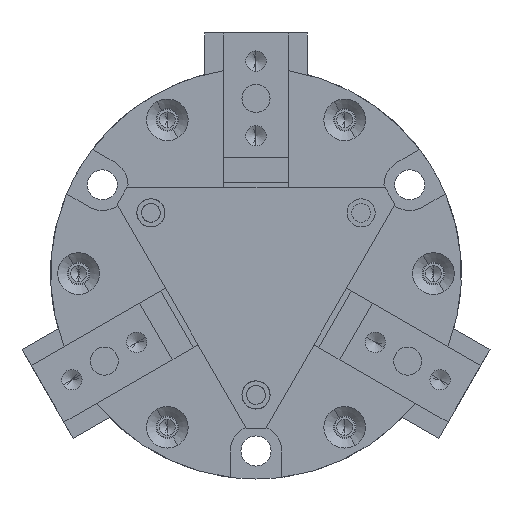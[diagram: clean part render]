
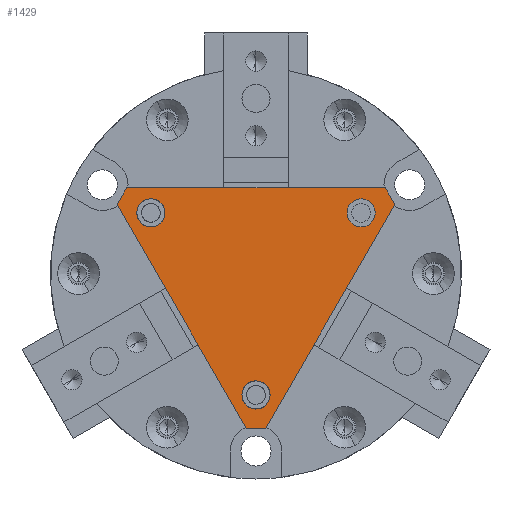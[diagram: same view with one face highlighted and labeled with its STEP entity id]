
A CAD part, front view. The second image highlights one B-rep face of the part: STEP entity #1429.
In plain terms, the highlighted planar face has unit normal (0, -1, 0).
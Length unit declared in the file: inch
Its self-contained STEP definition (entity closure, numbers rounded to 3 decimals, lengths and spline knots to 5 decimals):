
#62 = AXIS2_PLACEMENT_3D ( 'NONE', #4206, #447, #4855 ) ;
#154 = CIRCLE ( 'NONE', #6243, 0.094 ) ;
#314 = EDGE_CURVE ( 'NONE', #5791, #2482, #4451, .T. ) ;
#447 = DIRECTION ( 'NONE',  ( 0., 1., 0. ) ) ;
#621 = ORIENTED_EDGE ( 'NONE', *, *, #1817, .F. ) ;
#714 = FACE_BOUND ( 'NONE', #3078, .T. ) ;
#947 = VECTOR ( 'NONE', #5336, 39.37008 ) ;
#1154 = CARTESIAN_POINT ( 'NONE',  ( -0.92953, 0., 0.462 ) ) ;
#1218 = CARTESIAN_POINT ( 'NONE',  ( 0.92953, 0., 0.462 ) ) ;
#1305 = ORIENTED_EDGE ( 'NONE', *, *, #4484, .F. ) ;
#1429 = ADVANCED_FACE ( 'NONE', ( #5750, #714, #7619, #5558 ), #7865, .T. ) ;
#1449 = VECTOR ( 'NONE', #7545, 39.37008 ) ;
#1488 = EDGE_CURVE ( 'NONE', #5136, #6116, #5142, .T. ) ;
#1513 = CARTESIAN_POINT ( 'NONE',  ( -0.86487, 0., 0.574 ) ) ;
#1600 = CARTESIAN_POINT ( 'NONE',  ( 0., 0., -1.148 ) ) ;
#1632 = EDGE_CURVE ( 'NONE', #6116, #5136, #4337, .T. ) ;
#1698 = LINE ( 'NONE', #6988, #6552 ) ;
#1709 = VERTEX_POINT ( 'NONE', #1847 ) ;
#1742 = CARTESIAN_POINT ( 'NONE',  ( 0., 0., -0.7185 ) ) ;
#1789 = DIRECTION ( 'NONE',  ( 0., 1., 0. ) ) ;
#1811 = ORIENTED_EDGE ( 'NONE', *, *, #1632, .T. ) ;
#1817 = EDGE_CURVE ( 'NONE', #6718, #7294, #1698, .T. ) ;
#1847 = CARTESIAN_POINT ( 'NONE',  ( 0.70365, 0., 0.50025 ) ) ;
#2014 = CARTESIAN_POINT ( 'NONE',  ( 0.92953, 0., 0.462 ) ) ;
#2189 = CARTESIAN_POINT ( 'NONE',  ( -0.70365, 0., 0.31225 ) ) ;
#2195 = AXIS2_PLACEMENT_3D ( 'NONE', #7159, #3320, #7771 ) ;
#2214 = EDGE_LOOP ( 'NONE', ( #3746, #5862 ) ) ;
#2221 = DIRECTION ( 'NONE',  ( 0., -1., 0. ) ) ;
#2305 = VERTEX_POINT ( 'NONE', #7656 ) ;
#2413 = EDGE_LOOP ( 'NONE', ( #1305, #6575, #5270, #621, #4155, #6279 ) ) ;
#2482 = VERTEX_POINT ( 'NONE', #4677 ) ;
#2587 = AXIS2_PLACEMENT_3D ( 'NONE', #5572, #1789, #6224 ) ;
#2636 = VERTEX_POINT ( 'NONE', #3497 ) ;
#2678 = CARTESIAN_POINT ( 'NONE',  ( -0.92953, 0., 0.462 ) ) ;
#2823 = DIRECTION ( 'NONE',  ( 0., 1., 0. ) ) ;
#2927 = DIRECTION ( 'NONE',  ( -0.5, 0., 0.866 ) ) ;
#3049 = VECTOR ( 'NONE', #6465, 39.37008 ) ;
#3078 = EDGE_LOOP ( 'NONE', ( #4549, #1811 ) ) ;
#3081 = CARTESIAN_POINT ( 'NONE',  ( 0., 0., -0.8125 ) ) ;
#3122 = EDGE_CURVE ( 'NONE', #5774, #1709, #3622, .T. ) ;
#3320 = DIRECTION ( 'NONE',  ( 0., 1., 0. ) ) ;
#3497 = CARTESIAN_POINT ( 'NONE',  ( -0.86487, 0., 0.574 ) ) ;
#3526 = DIRECTION ( 'NONE',  ( 0., 1., 0. ) ) ;
#3616 = EDGE_CURVE ( 'NONE', #7294, #5791, #4809, .T. ) ;
#3622 = CIRCLE ( 'NONE', #62, 0.094 ) ;
#3713 = DIRECTION ( 'NONE',  ( 0., 0., 1. ) ) ;
#3746 = ORIENTED_EDGE ( 'NONE', *, *, #5576, .T. ) ;
#4155 = ORIENTED_EDGE ( 'NONE', *, *, #5050, .F. ) ;
#4206 = CARTESIAN_POINT ( 'NONE',  ( 0.70365, 0., 0.40625 ) ) ;
#4252 = ORIENTED_EDGE ( 'NONE', *, *, #7444, .T. ) ;
#4337 = CIRCLE ( 'NONE', #2587, 0.094 ) ;
#4451 = LINE ( 'NONE', #6472, #6177 ) ;
#4461 = CIRCLE ( 'NONE', #2195, 0.094 ) ;
#4484 = EDGE_CURVE ( 'NONE', #2482, #5787, #6400, .T. ) ;
#4549 = ORIENTED_EDGE ( 'NONE', *, *, #1488, .T. ) ;
#4623 = EDGE_CURVE ( 'NONE', #5735, #2305, #154, .T. ) ;
#4677 = CARTESIAN_POINT ( 'NONE',  ( -0.06467, 0., -1.036 ) ) ;
#4809 = LINE ( 'NONE', #1218, #1449 ) ;
#4855 = DIRECTION ( 'NONE',  ( 0., 0., 1. ) ) ;
#4900 = VECTOR ( 'NONE', #2927, 39.37008 ) ;
#4940 = CARTESIAN_POINT ( 'NONE',  ( 0.70365, 0., 0.31225 ) ) ;
#4959 = LINE ( 'NONE', #2678, #3049 ) ;
#4966 = CARTESIAN_POINT ( 'NONE',  ( 0.06467, 0., -1.036 ) ) ;
#5050 = EDGE_CURVE ( 'NONE', #2636, #6718, #5785, .T. ) ;
#5136 = VERTEX_POINT ( 'NONE', #5393 ) ;
#5142 = CIRCLE ( 'NONE', #7853, 0.094 ) ;
#5270 = ORIENTED_EDGE ( 'NONE', *, *, #3616, .F. ) ;
#5336 = DIRECTION ( 'NONE',  ( 1., 0., 0. ) ) ;
#5393 = CARTESIAN_POINT ( 'NONE',  ( -0.70365, 0., 0.50025 ) ) ;
#5558 = FACE_OUTER_BOUND ( 'NONE', #2413, .T. ) ;
#5572 = CARTESIAN_POINT ( 'NONE',  ( -0.70365, 0., 0.40625 ) ) ;
#5576 = EDGE_CURVE ( 'NONE', #1709, #5774, #4461, .T. ) ;
#5735 = VERTEX_POINT ( 'NONE', #1742 ) ;
#5750 = FACE_BOUND ( 'NONE', #2214, .T. ) ;
#5774 = VERTEX_POINT ( 'NONE', #4940 ) ;
#5785 = LINE ( 'NONE', #1513, #947 ) ;
#5787 = VERTEX_POINT ( 'NONE', #1154 ) ;
#5791 = VERTEX_POINT ( 'NONE', #4966 ) ;
#5862 = ORIENTED_EDGE ( 'NONE', *, *, #3122, .T. ) ;
#6116 = VERTEX_POINT ( 'NONE', #2189 ) ;
#6151 = AXIS2_PLACEMENT_3D ( 'NONE', #6643, #2823, #7274 ) ;
#6172 = AXIS2_PLACEMENT_3D ( 'NONE', #1600, #2221, #6678 ) ;
#6177 = VECTOR ( 'NONE', #7697, 39.37008 ) ;
#6224 = DIRECTION ( 'NONE',  ( 0., 0., 1. ) ) ;
#6243 = AXIS2_PLACEMENT_3D ( 'NONE', #3081, #7525, #3713 ) ;
#6279 = ORIENTED_EDGE ( 'NONE', *, *, #7346, .F. ) ;
#6400 = LINE ( 'NONE', #7379, #4900 ) ;
#6465 = DIRECTION ( 'NONE',  ( 0.5, 0., 0.866 ) ) ;
#6472 = CARTESIAN_POINT ( 'NONE',  ( -0.06467, 0., -1.036 ) ) ;
#6476 = CARTESIAN_POINT ( 'NONE',  ( 0.86487, 0., 0.574 ) ) ;
#6552 = VECTOR ( 'NONE', #7602, 39.37008 ) ;
#6575 = ORIENTED_EDGE ( 'NONE', *, *, #314, .F. ) ;
#6643 = CARTESIAN_POINT ( 'NONE',  ( 0., 0., -0.8125 ) ) ;
#6678 = DIRECTION ( 'NONE',  ( 0., 0., -1. ) ) ;
#6718 = VERTEX_POINT ( 'NONE', #6476 ) ;
#6988 = CARTESIAN_POINT ( 'NONE',  ( 0.92953, 0., 0.462 ) ) ;
#7159 = CARTESIAN_POINT ( 'NONE',  ( 0.70365, 0., 0.40625 ) ) ;
#7264 = ORIENTED_EDGE ( 'NONE', *, *, #4623, .T. ) ;
#7274 = DIRECTION ( 'NONE',  ( 0., 0., 1. ) ) ;
#7294 = VERTEX_POINT ( 'NONE', #2014 ) ;
#7346 = EDGE_CURVE ( 'NONE', #5787, #2636, #4959, .T. ) ;
#7355 = CARTESIAN_POINT ( 'NONE',  ( -0.70365, 0., 0.40625 ) ) ;
#7379 = CARTESIAN_POINT ( 'NONE',  ( -0.06467, 0., -1.036 ) ) ;
#7444 = EDGE_CURVE ( 'NONE', #2305, #5735, #7717, .T. ) ;
#7525 = DIRECTION ( 'NONE',  ( 0., 1., 0. ) ) ;
#7545 = DIRECTION ( 'NONE',  ( -0.5, 0., -0.866 ) ) ;
#7550 = EDGE_LOOP ( 'NONE', ( #7264, #4252 ) ) ;
#7602 = DIRECTION ( 'NONE',  ( 0.5, 0., -0.866 ) ) ;
#7619 = FACE_BOUND ( 'NONE', #7550, .T. ) ;
#7656 = CARTESIAN_POINT ( 'NONE',  ( 0., 0., -0.9065 ) ) ;
#7697 = DIRECTION ( 'NONE',  ( -1., 0., 0. ) ) ;
#7717 = CIRCLE ( 'NONE', #6151, 0.094 ) ;
#7771 = DIRECTION ( 'NONE',  ( 0., 0., 1. ) ) ;
#7853 = AXIS2_PLACEMENT_3D ( 'NONE', #7355, #3526, #7972 ) ;
#7865 = PLANE ( 'NONE',  #6172 ) ;
#7972 = DIRECTION ( 'NONE',  ( 0., 0., 1. ) ) ;
